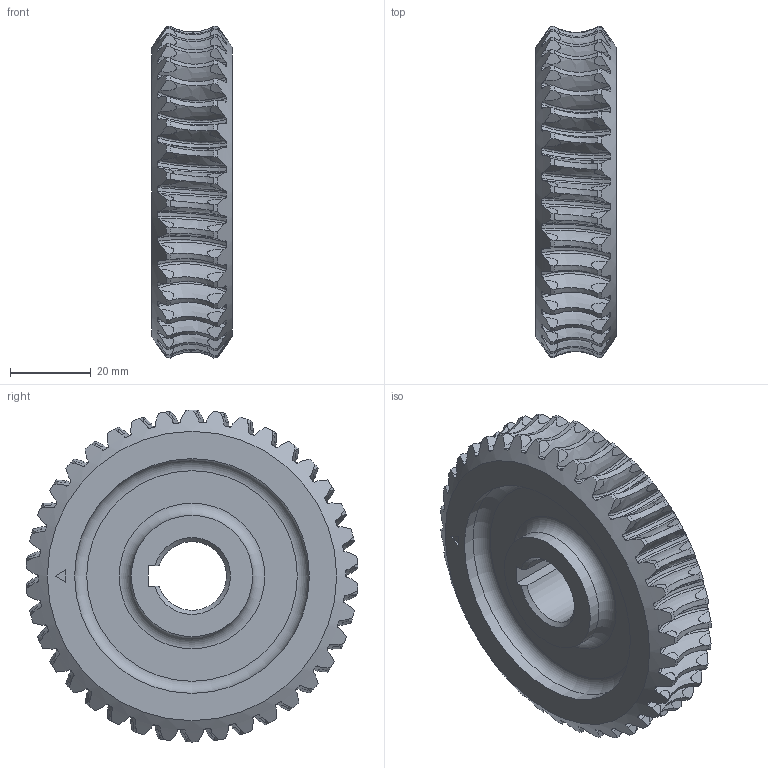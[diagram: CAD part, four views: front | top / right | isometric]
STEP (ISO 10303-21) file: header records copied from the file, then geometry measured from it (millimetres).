
FILE_DESCRIPTION(/* description */ (''),/* implementation_level */ '2;1');
FILE_NAME(/* name */ '',/* time_stamp */ '2026-07-02T16:37:34+09:00',/* author */ ('jhkim'),/* organization */ (''),/* preprocessor_version */ 'ST-DEVELOPER v20.1',/* originating_system */ 'Autodesk Inventor 2027',/* authorisation */ '');
FILE_SCHEMA (('AUTOMOTIVE_DESIGN { 1 0 10303 214 3 1 1 }'));
Products named in the file (1): 웜 휠
Bounding box: 20 x 81.92 x 82 mm (x, y, z)
Volume: 63669.2 mm3; surface area: 20552 mm2
Topology: 1 solids, 1 shells, 486 faces, 1434 edges, 956 vertices
Faces by surface type: bspline 342, cylinder 81, torus 42, plane 17, cone 4
Full cylindrical faces by diameter (mm): 30 x2, 58 x2
Entity records: 33861 total; most frequent: CARTESIAN_POINT 24129, ORIENTED_EDGE 2868, EDGE_CURVE 1434, B_SPLINE_CURVE_WITH_KNOTS 1218, VERTEX_POINT 956, DIRECTION 680, EDGE_LOOP 494, FACE_OUTER_BOUND 486
